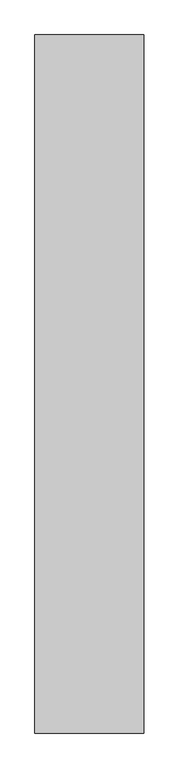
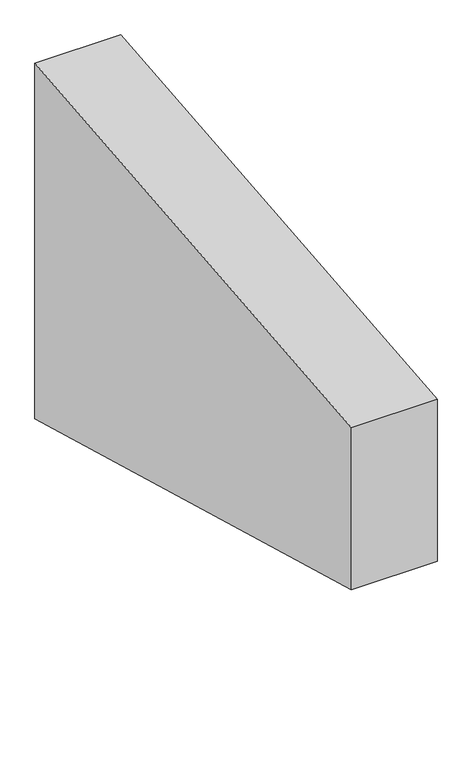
"""IFC4 building model written with IfcOpenShell, lengths in millimetres: beam geometry, mensola3 : mensola."""

from ifc_helpers import new_model, si_unit, frame, origin, place, context, project, spatial, polyline, outline, extrude, source, transform, mapped, element, save


def beam_40692427(model_context):
    return source(origin(), model_context, "Body", "SweptSolid", [
        extrude(outline(polyline([(23913.3920265, -5124.2740657), (23913.3920265, -4624.2740657), (25513.3893107, -4470.0), (25513.3893107, -5566.6914971), (23913.3920265, -5124.2740657)])), frame((-15116.2802282, 0.0, 0.0), z_axis=(1.0, 0.0, 0.0), x_axis=(0.0, 1.0, 0.0)), (0.0, 0.0, 1.0), 250.0),
    ])


if __name__ == "__main__":
    model = new_model("IFC4")
    model_context = context("Model", 3, world=origin())
    ifc_project = project(units=[si_unit("LENGTHUNIT", "METRE", prefix="MILLI")], contexts=[model_context])
    site = spatial("IfcSite", under=ifc_project)
    building = spatial("IfcBuilding", under=site)
    placement = place(None, origin())
    beam_shape = beam_40692427(model_context)
    element("IfcBeam", 1, ObjectType="mensola3 : mensola", at=placement, inside=building, context=model_context, shape_type="MappedRepresentation", body=[
        mapped(beam_shape, transform((0.0, 0.0, 0.0), x_axis=(1.0, 0.0, 0.0), y_axis=(0.0, 1.0, 0.0), z_axis=(0.0, 0.0, 1.0))),
    ])
    save(model, "model.ifc")
